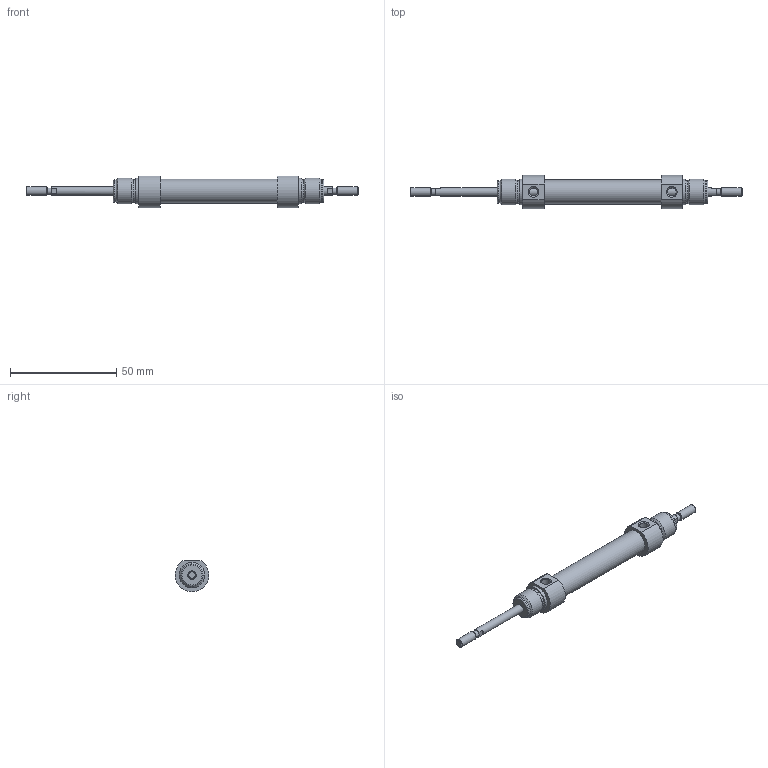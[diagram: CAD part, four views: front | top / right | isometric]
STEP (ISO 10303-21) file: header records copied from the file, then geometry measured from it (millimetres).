
FILE_DESCRIPTION( ( 'STEP AP203' ), '1' );
FILE_NAME( '//expscmdclustefs.cadenas.external/client_exchange/iodir/jobs/output/wkb68274334_no0/STEP/M101-010-0025-M__0__2_03.stp', ' ', ( ' ' ), ( ' ' ), 'PSStep 15.0.47', 'PARTsolutions', ' ' );
FILE_SCHEMA( ( 'CONFIG_CONTROL_DESIGN' ) );
Length unit declared in the file: millimetre
Products named in the file (3): M101-010-0025-M [0]; HI_M101-010-0025-M-[0]-z; HI_M101-010-0025-M-[0]-k
Assembly tree (2 placements, depth 2):
  M101-010-0025-M [0]
    HI_M101-010-0025-M-[0]-z
    HI_M101-010-0025-M-[0]-k
Bounding box: 156 x 15.77 x 14.87 mm (x, y, z)
Volume: 10781.9 mm3; surface area: 8579.9 mm2
Topology: 2 solids, 2 shells, 71 faces, 145 edges, 88 vertices
Faces by surface type: plane 32, cylinder 23, cone 14, torus 2
Full cylindrical faces by diameter (mm): 3.141 x2, 4 x6, 4.134 x2, 10 x2, 10.466 x4, 11.3 x1, 12 x4
Entity records: 1838 total; most frequent: CARTESIAN_POINT 358, DIRECTION 312, ORIENTED_EDGE 212, AXIS2_PLACEMENT_3D 140, EDGE_LOOP 120, EDGE_CURVE 106, FACE_OUTER_BOUND 94, VERTEX_POINT 82
